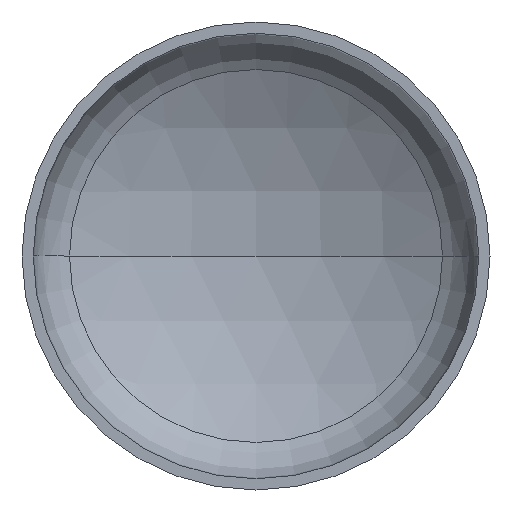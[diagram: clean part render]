
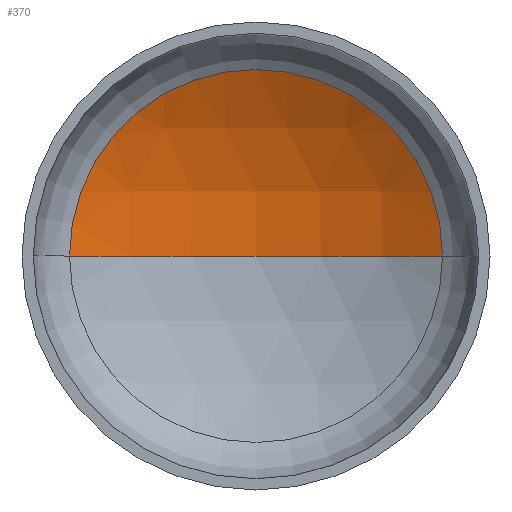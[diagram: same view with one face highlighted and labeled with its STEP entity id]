
A CAD part, front view. The second image highlights one B-rep face of the part: STEP entity #370.
In plain terms, the highlighted spherical face has radius 3600 mm.
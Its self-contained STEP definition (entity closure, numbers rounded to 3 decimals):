
#2 = AXIS2_PLACEMENT_3D ( 'NONE', #215, #306, #139 ) ;
#6 = AXIS2_PLACEMENT_3D ( 'NONE', #28, #131, #88 ) ;
#11 = AXIS2_PLACEMENT_3D ( 'NONE', #61, #149, #208 ) ;
#12 = AXIS2_PLACEMENT_3D ( 'NONE', #329, #185, #89 ) ;
#16 = ORIENTED_EDGE ( 'NONE', *, *, #341, .T. ) ;
#22 = ORIENTED_EDGE ( 'NONE', *, *, #343, .T. ) ;
#28 = CARTESIAN_POINT ( 'NONE',  ( 0., -2443.971, 0. ) ) ;
#35 = EDGE_LOOP ( 'NONE', ( #83, #22, #16 ) ) ;
#61 = CARTESIAN_POINT ( 'NONE',  ( 0., -2443.971, 0. ) ) ;
#65 = CIRCLE ( 'NONE', #12, 1793.184 ) ;
#83 = ORIENTED_EDGE ( 'NONE', *, *, #387, .F. ) ;
#88 = DIRECTION ( 'NONE',  ( -1., 0., 0. ) ) ;
#89 = DIRECTION ( 'NONE',  ( 1., 0., 0. ) ) ;
#131 = DIRECTION ( 'NONE',  ( 0., 0., -1. ) ) ;
#134 = VERTEX_POINT ( 'NONE', #297 ) ;
#137 = VERTEX_POINT ( 'NONE', #213 ) ;
#139 = DIRECTION ( 'NONE',  ( 1., 0., 0. ) ) ;
#142 = CARTESIAN_POINT ( 'NONE',  ( 1793.184, 677.645, 0. ) ) ;
#149 = DIRECTION ( 'NONE',  ( 0., 0., -1. ) ) ;
#150 = FACE_OUTER_BOUND ( 'NONE', #35, .T. ) ;
#185 = DIRECTION ( 'NONE',  ( 0., -1., 0. ) ) ;
#208 = DIRECTION ( 'NONE',  ( -1., 0., 0. ) ) ;
#213 = CARTESIAN_POINT ( 'NONE',  ( 0., 1156.029, 0. ) ) ;
#215 = CARTESIAN_POINT ( 'NONE',  ( 0., -2443.971, 0. ) ) ;
#276 = CIRCLE ( 'NONE', #2, 3600. ) ;
#297 = CARTESIAN_POINT ( 'NONE',  ( -1793.184, 677.645, 0. ) ) ;
#306 = DIRECTION ( 'NONE',  ( 0., 0., 1. ) ) ;
#329 = CARTESIAN_POINT ( 'NONE',  ( 0., 677.645, 0. ) ) ;
#341 = EDGE_CURVE ( 'NONE', #372, #134, #65, .T. ) ;
#343 = EDGE_CURVE ( 'NONE', #137, #372, #366, .T. ) ;
#357 = SPHERICAL_SURFACE ( 'NONE', #6, 3600. ) ;
#366 = CIRCLE ( 'NONE', #11, 3600. ) ;
#370 = ADVANCED_FACE ( 'NONE', ( #150 ), #357, .F. ) ;
#372 = VERTEX_POINT ( 'NONE', #142 ) ;
#387 = EDGE_CURVE ( 'NONE', #137, #134, #276, .T. ) ;
